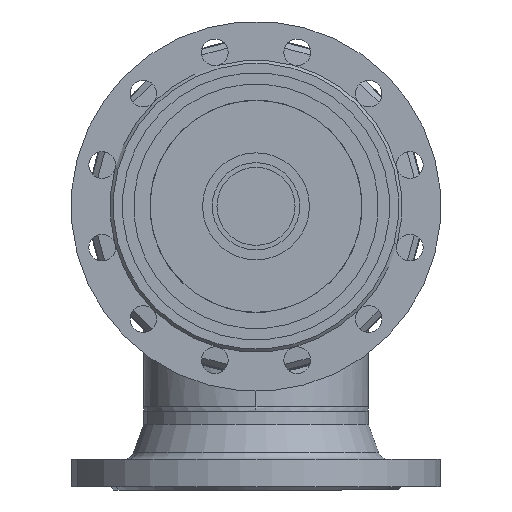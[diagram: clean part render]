
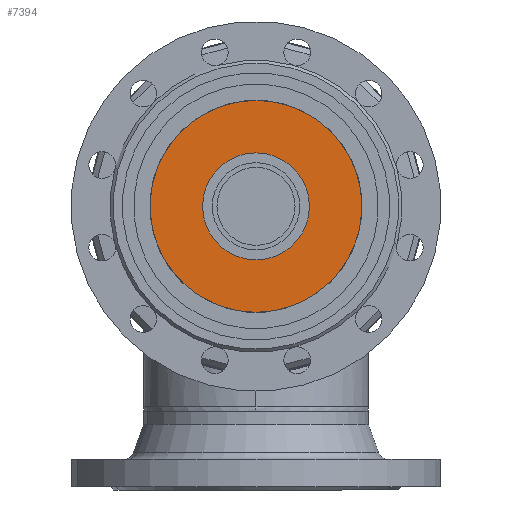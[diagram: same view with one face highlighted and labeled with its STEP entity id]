
A CAD part, front view. The second image highlights one B-rep face of the part: STEP entity #7394.
In plain terms, the highlighted planar face has unit normal (0, -1, 0).
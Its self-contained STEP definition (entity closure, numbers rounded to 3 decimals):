
#16485 = CARTESIAN_POINT ( 'NONE',  ( 0., -48., 120. ) ) ;
#17072 = CARTESIAN_POINT ( 'NONE',  ( 0., -48., -120. ) ) ;
#17490 = CIRCLE ( 'NONE', #17491, 120. ) ;
#17491 = AXIS2_PLACEMENT_3D ( 'NONE', #17492, #17493, #17494 ) ;
#17492 = CARTESIAN_POINT ( 'NONE',  ( 0., -48., 0. ) ) ;
#17493 = DIRECTION ( 'NONE',  ( 0., -1., 0. ) ) ;
#17494 = DIRECTION ( 'NONE',  ( 0., 0., -1. ) ) ;
#1323 = VERTEX_POINT ( 'NONE', #16485 ) ;
#1547 = VERTEX_POINT ( 'NONE', #17072 ) ;
#1774 = EDGE_CURVE ( 'NONE', #1547, #1323, #17490, .T. ) ;
#2047 = CARTESIAN_POINT ( 'NONE',  ( 0., -48., 52. ) ) ;
#2587 = CARTESIAN_POINT ( 'NONE',  ( 0., -48., -52. ) ) ;
#5998 = CIRCLE ( 'NONE', #5999, 52. ) ;
#5999 = AXIS2_PLACEMENT_3D ( 'NONE', #6000, #6001, #6002 ) ;
#6000 = CARTESIAN_POINT ( 'NONE',  ( 0., -48., 0. ) ) ;
#6001 = DIRECTION ( 'NONE',  ( 0., -1., 0. ) ) ;
#6002 = DIRECTION ( 'NONE',  ( 0., 0., -1. ) ) ;
#6461 = EDGE_CURVE ( 'NONE', #13518, #13050, #10165, .T. ) ;
#6628 = ORIENTED_EDGE ( 'NONE', *, *, #6461, .F. ) ;
#7156 = EDGE_LOOP ( 'NONE', ( #6628, #15322 ) ) ;
#7394 = ADVANCED_FACE ( 'NONE', ( #11255, #11256 ), #11274, .T. ) ;
#8847 = EDGE_CURVE ( 'NONE', #1323, #1547, #16154, .T. ) ;
#10165 = CIRCLE ( 'NONE', #10166, 52. ) ;
#10166 = AXIS2_PLACEMENT_3D ( 'NONE', #10167, #10169, #10170 ) ;
#10167 = CARTESIAN_POINT ( 'NONE',  ( 0., -48., 0. ) ) ;
#10169 = DIRECTION ( 'NONE',  ( 0., -1., 0. ) ) ;
#10170 = DIRECTION ( 'NONE',  ( 0., 0., -1. ) ) ;
#11255 = FACE_BOUND ( 'NONE', #7156, .T. ) ;
#11256 = FACE_OUTER_BOUND ( 'NONE', #15081, .T. ) ;
#11274 = PLANE ( 'NONE',  #11275 ) ;
#11275 = AXIS2_PLACEMENT_3D ( 'NONE', #11276, #11277, #11278 ) ;
#11276 = CARTESIAN_POINT ( 'NONE',  ( 0., -48., 0. ) ) ;
#11277 = DIRECTION ( 'NONE',  ( 0., -1., 0. ) ) ;
#11278 = DIRECTION ( 'NONE',  ( 0., 0., -1. ) ) ;
#13050 = VERTEX_POINT ( 'NONE', #2047 ) ;
#13518 = VERTEX_POINT ( 'NONE', #2587 ) ;
#13850 = ORIENTED_EDGE ( 'NONE', *, *, #1774, .T. ) ;
#14376 = ORIENTED_EDGE ( 'NONE', *, *, #8847, .T. ) ;
#14872 = EDGE_CURVE ( 'NONE', #13050, #13518, #5998, .T. ) ;
#15081 = EDGE_LOOP ( 'NONE', ( #14376, #13850 ) ) ;
#15322 = ORIENTED_EDGE ( 'NONE', *, *, #14872, .F. ) ;
#16154 = CIRCLE ( 'NONE', #16175, 120. ) ;
#16175 = AXIS2_PLACEMENT_3D ( 'NONE', #16176, #16177, #16178 ) ;
#16176 = CARTESIAN_POINT ( 'NONE',  ( 0., -48., 0. ) ) ;
#16177 = DIRECTION ( 'NONE',  ( 0., -1., 0. ) ) ;
#16178 = DIRECTION ( 'NONE',  ( 0., 0., -1. ) ) ;
